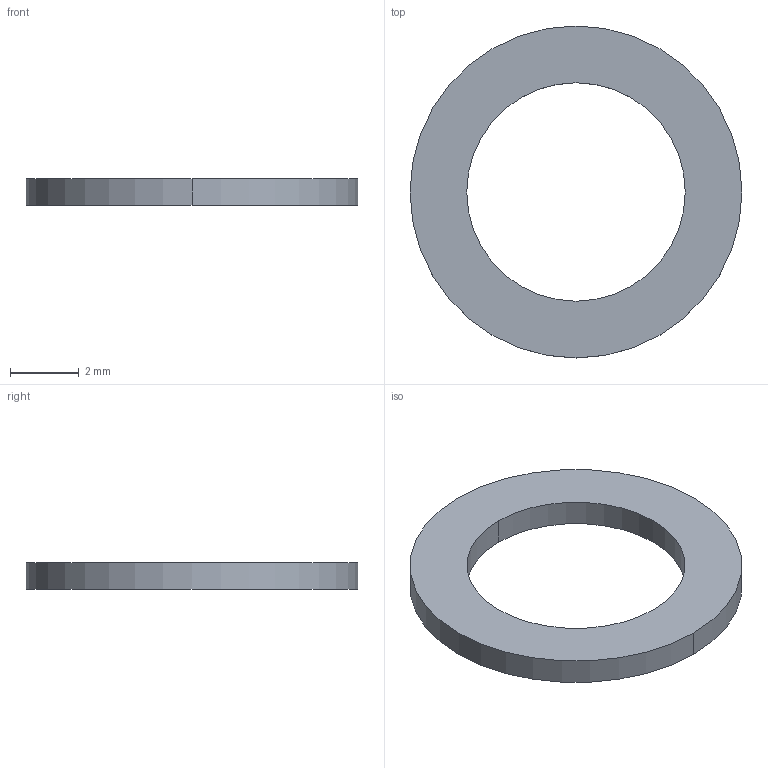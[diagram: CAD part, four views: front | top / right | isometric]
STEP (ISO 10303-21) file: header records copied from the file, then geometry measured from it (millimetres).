
FILE_DESCRIPTION(/* description */ ('VariCAD 2010-1.04 AP-203'),/* implementation_level */ '2;1');
FILE_NAME(/* name */ '0353-94-61',/* time_stamp */ '2010-01-28T17:43:22-07:00',/* author */ (''),/* organization */ (''),/* preprocessor_version */ 'ST-DEVELOPER v12',/* originating_system */ 'VariCAD 2010-1.04; kernel version (20090520)',/* authorisation */ '');
FILE_SCHEMA (('CONFIG_CONTROL_DESIGN'));
Length unit declared in the file: millimetre
Products named in the file (1): Part
Bounding box: 9.65 x 9.65 x 0.76 mm (x, y, z)
Volume: 31.6 mm3; surface area: 121.2 mm2
Topology: 1 solids, 1 shells, 6 faces, 12 edges, 8 vertices
Faces by surface type: cylinder 4, plane 2
Entity records: 214 total; most frequent: DIRECTION 36, CARTESIAN_POINT 28, ORIENTED_EDGE 24, AXIS2_PLACEMENT_3D 16, EDGE_CURVE 12, EDGE_LOOP 8, CIRCLE 8, VERTEX_POINT 8
